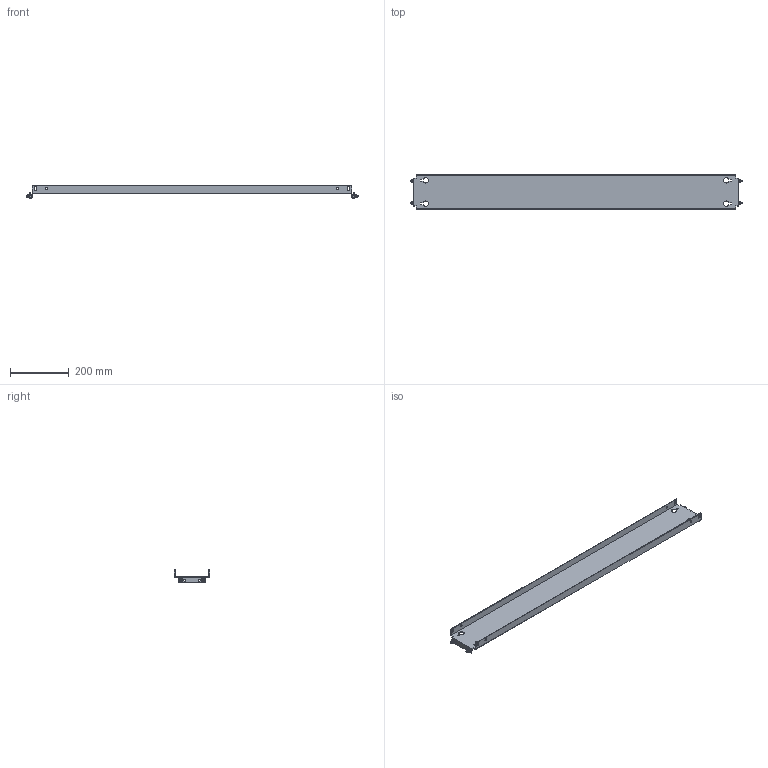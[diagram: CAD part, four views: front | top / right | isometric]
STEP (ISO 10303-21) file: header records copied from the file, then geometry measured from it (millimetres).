
FILE_DESCRIPTION(('Open CASCADE Model'),'2;1');
FILE_NAME('Open CASCADE Shape Model','2025-02-24T17:07:11',('Author'),( 'Open CASCADE'),'Open CASCADE STEP processor 7.8','Open CASCADE 7.8' ,'Unknown');
FILE_SCHEMA(('AUTOMOTIVE_DESIGN { 1 0 10303 214 1 1 1 1 }'));
Length unit declared in the file: millimetre
Products named in the file (4): Compound1; Solid1; Solid2; Solid3
Assembly tree (9 placements, depth 2):
  Compound1
    Solid1
    Solid2  x4
    Solid3  x4
Bounding box: 1127 x 119 x 42.59 mm (x, y, z)
Volume: 462412.3 mm3; surface area: 378564 mm2
Topology: 9 solids, 9 shells, 306 faces, 746 edges, 462 vertices
Faces by surface type: plane 150, cone 68, bspline 48, cylinder 28, torus 12
Full cylindrical faces by diameter (mm): 5 x4, 6 x8, 7 x12
Entity records: 4844 total; most frequent: CARTESIAN_POINT 1361, ORIENTED_EDGE 742, DIRECTION 628, EDGE_CURVE 371, VERTEX_POINT 240, LINE 216, VECTOR 216, AXIS2_PLACEMENT_3D 206
